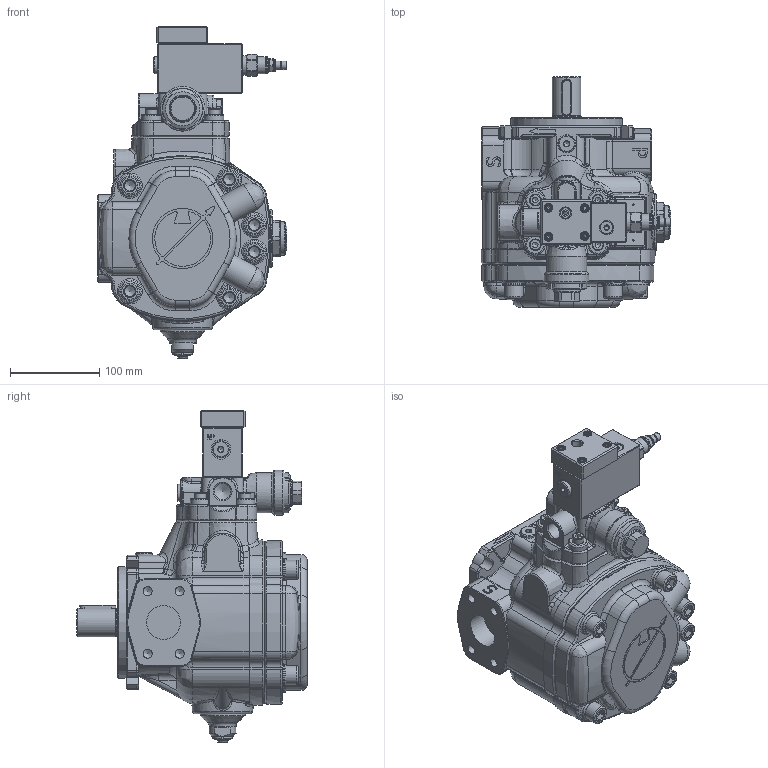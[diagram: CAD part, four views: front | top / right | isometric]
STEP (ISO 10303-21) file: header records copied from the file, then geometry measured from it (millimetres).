
FILE_DESCRIPTION(/* description */ (''),/* implementation_level */ '2;1');
FILE_NAME(/* name */ 'W:\Tecnico\Archivio\Berarma\Dimensioni Pompe\3D Export\Montaggio 3D semplificato\PLP-PHP 2\PHP 2 PCS002.stp',/* time_stamp */ '2018-10-09T16:50:47+02:00',/* author */ ('marcop'),/* organization */ (''),/* preprocessor_version */ 'ST-DEVELOPER v17',/* originating_system */ 'Autodesk Inventor 2018',/* authorisation */ '');
FILE_SCHEMA (('AUTOMOTIVE_DESIGN { 1 0 10303 214 3 1 1 }'));
Products named in the file (1): PLP - PHP 2_Shrinkwrap_1
Bounding box: 212.33 x 257.5 x 371.1 mm (x, y, z)
Volume: 4787750 mm3; surface area: 430163.6 mm2
Topology: 2 solids, 2 shells, 2256 faces, 5762 edges, 3586 vertices
Faces by surface type: plane 846, cylinder 511, bspline 429, torus 218, cone 218, sphere 34
Full cylindrical faces by diameter (mm): 1.7 x4, 2.5 x3, 4 x2, 6 x2, 6.5 x1, 7.2 x1, 7.671 x2, 8 x1, 8.376 x4, 8.5 x4, 9 x4, 9.347 x2, 9.5 x1, 10 x1, 10.106 x4, 11.445 x2, 12 x4, 13 x4, 13.487 x1, 13.5 x1, 13.767 x2, 14 x3, 14.63 x1, 15.5 x1, 16 x2, 17.399 x1, 17.5 x1, 17.78 x1, 18.631 x1, 18.974 x2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
Entity records: 84525 total; most frequent: CARTESIAN_POINT 30294, ORIENTED_EDGE 11400, DIRECTION 10241, EDGE_CURVE 5700, AXIS2_PLACEMENT_3D 3975, VERTEX_POINT 3586, EDGE_LOOP 2398, LINE 2291
